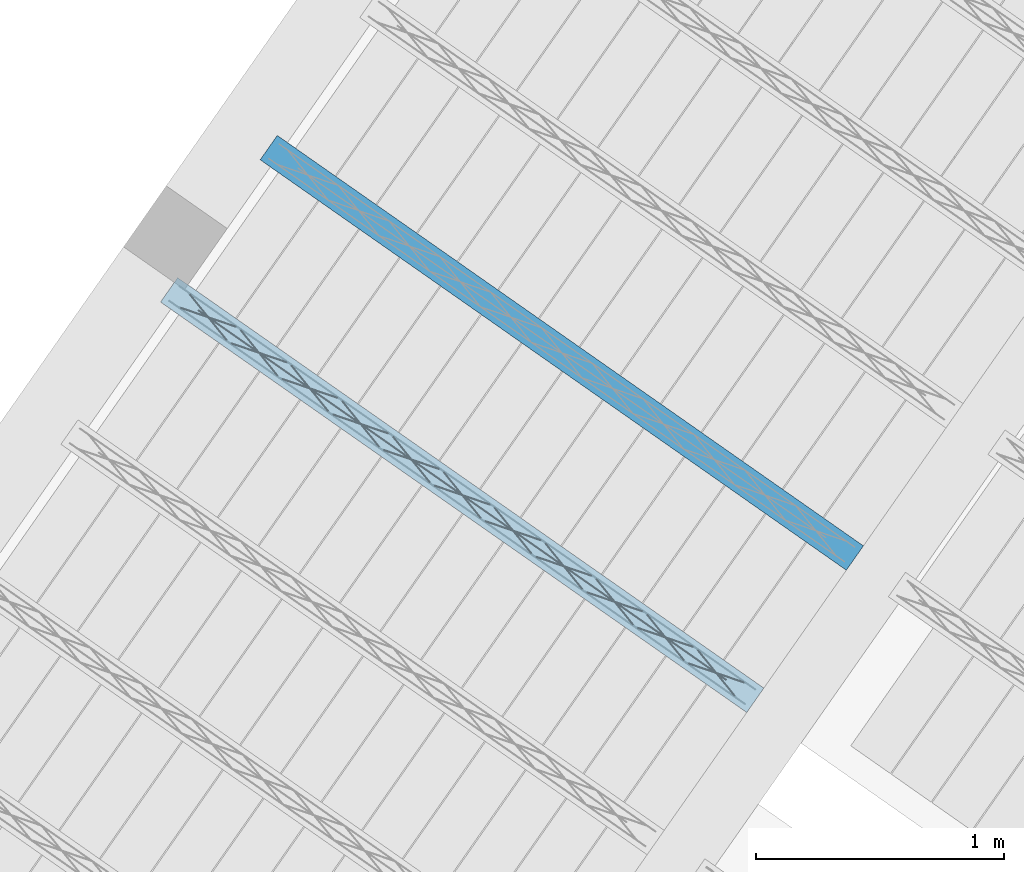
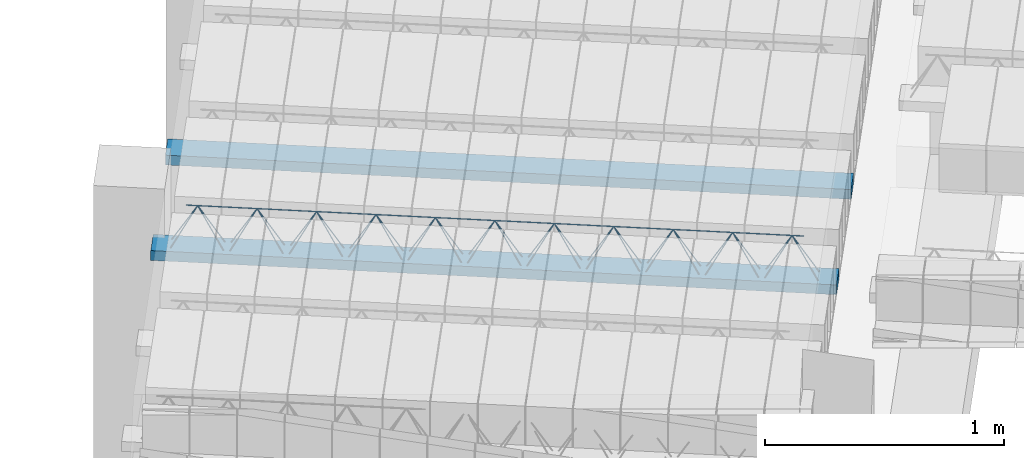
# One storey, part 17 of 80: 2 beams.
"""IFC2X3 building model written with IfcOpenShell, lengths in metres."""

from ifc_helpers import new_model, entity, si_unit, converted_unit, derived_unit, direction, frame, frame_2d, origin, origin_2d_with_axis, place, context, subcontext, project, spatial, rectangle, circle, extrude, material, type_object, element, save


model = new_model("IFC2X3")

# Units and contexts
model_context = context("Model", 3, precision=1e-05, world=origin(), true_north=direction((6.123031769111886e-17, 1.0)))
body_context = subcontext(model_context, "Body", "Model", "MODEL_VIEW")
ifc_project = project(units=[si_unit("LENGTHUNIT", "METRE"), si_unit("AREAUNIT", "SQUARE_METRE"), si_unit("VOLUMEUNIT", "CUBIC_METRE"), converted_unit("PLANEANGLEUNIT", "DEGREE", entity("IfcPlaneAngleMeasure", 0.017453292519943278), si_unit("PLANEANGLEUNIT", "RADIAN"), dimensions=[0, 0, 0, 0, 0, 0, 0]), si_unit("MASSUNIT", "GRAM", prefix="KILO"), derived_unit("MASSDENSITYUNIT", [(si_unit("MASSUNIT", "GRAM", prefix="KILO"), 1), (si_unit("LENGTHUNIT", "METRE"), -3)]), derived_unit("IONCONCENTRATIONUNIT", [(si_unit("MASSUNIT", "GRAM", prefix="KILO"), 1), (si_unit("LENGTHUNIT", "METRE"), -3)]), derived_unit("MOMENTOFINERTIAUNIT", [(si_unit("LENGTHUNIT", "METRE"), 4)]), si_unit("TIMEUNIT", "SECOND"), si_unit("FREQUENCYUNIT", "HERTZ"), si_unit("THERMODYNAMICTEMPERATUREUNIT", "DEGREE_CELSIUS"), derived_unit("THERMALTRANSMITTANCEUNIT", [(si_unit("MASSUNIT", "GRAM", prefix="KILO"), 1), (si_unit("THERMODYNAMICTEMPERATUREUNIT", "KELVIN"), -1), (si_unit("TIMEUNIT", "SECOND"), -3)]), derived_unit("THERMALCONDUCTANCEUNIT", [(si_unit("MASSUNIT", "GRAM", prefix="KILO"), 1), (si_unit("THERMODYNAMICTEMPERATUREUNIT", "KELVIN"), -1), (si_unit("TIMEUNIT", "SECOND"), -3), (si_unit("LENGTHUNIT", "METRE"), 1)]), derived_unit("VOLUMETRICFLOWRATEUNIT", [(si_unit("LENGTHUNIT", "METRE", prefix="DECI"), 3), (si_unit("TIMEUNIT", "SECOND"), -1)]), derived_unit("MASSFLOWRATEUNIT", [(si_unit("MASSUNIT", "GRAM", prefix="KILO"), 1), (si_unit("TIMEUNIT", "SECOND"), -1)]), derived_unit("ROTATIONALFREQUENCYUNIT", [(si_unit("TIMEUNIT", "SECOND"), -1)]), si_unit("ELECTRICCURRENTUNIT", "AMPERE"), si_unit("ELECTRICVOLTAGEUNIT", "VOLT"), si_unit("POWERUNIT", "WATT"), si_unit("FORCEUNIT", "NEWTON", prefix="KILO"), si_unit("ILLUMINANCEUNIT", "LUX"), si_unit("LUMINOUSFLUXUNIT", "LUMEN"), si_unit("LUMINOUSINTENSITYUNIT", "CANDELA"), si_unit("ENERGYUNIT", "JOULE"), derived_unit("USERDEFINED", [(si_unit("MASSUNIT", "GRAM", prefix="KILO"), -1), (si_unit("LENGTHUNIT", "METRE"), -2), (si_unit("TIMEUNIT", "SECOND"), 3), (si_unit("LUMINOUSFLUXUNIT", "LUMEN"), 1)]), derived_unit("USERDEFINED", [(si_unit("MASSUNIT", "GRAM", prefix="KILO"), 1), (si_unit("TIMEUNIT", "SECOND"), -3), (si_unit("LENGTHUNIT", "METRE"), 3), (si_unit("ELECTRICCURRENTUNIT", "AMPERE"), -2)]), derived_unit("SOUNDPOWERUNIT", [(si_unit("MASSUNIT", "GRAM", prefix="KILO"), 1), (si_unit("TIMEUNIT", "SECOND"), -3), (si_unit("LENGTHUNIT", "METRE"), 2)]), derived_unit("SOUNDPRESSUREUNIT", [(si_unit("MASSUNIT", "GRAM", prefix="KILO"), 1), (si_unit("LENGTHUNIT", "METRE"), -1), (si_unit("TIMEUNIT", "SECOND"), -2)]), derived_unit("LINEARVELOCITYUNIT", [(si_unit("LENGTHUNIT", "METRE"), 1), (si_unit("TIMEUNIT", "SECOND"), -1)]), si_unit("PRESSUREUNIT", "PASCAL"), derived_unit("USERDEFINED", [(si_unit("MASSUNIT", "GRAM", prefix="KILO"), 1), (si_unit("LENGTHUNIT", "METRE"), -2), (si_unit("TIMEUNIT", "SECOND"), -2)]), derived_unit("LINEARFORCEUNIT", [(si_unit("MASSUNIT", "GRAM", prefix="KILO"), 1), (si_unit("TIMEUNIT", "SECOND"), -2)]), derived_unit("PLANARFORCEUNIT", [(si_unit("MASSUNIT", "GRAM", prefix="KILO"), 1), (si_unit("LENGTHUNIT", "METRE"), -1), (si_unit("TIMEUNIT", "SECOND"), -2)]), derived_unit("SPECIFICHEATCAPACITYUNIT", [(si_unit("THERMODYNAMICTEMPERATUREUNIT", "KELVIN"), -1), (si_unit("LENGTHUNIT", "METRE"), 2), (si_unit("TIMEUNIT", "SECOND"), -2)]), derived_unit("HEATFLUXDENSITYUNIT", [(si_unit("MASSUNIT", "GRAM", prefix="KILO"), 1), (si_unit("TIMEUNIT", "SECOND"), -3)]), derived_unit("HEATINGVALUEUNIT", [(si_unit("LENGTHUNIT", "METRE"), 2), (si_unit("TIMEUNIT", "SECOND"), -2)]), derived_unit("VAPORPERMEABILITYUNIT", [(si_unit("LENGTHUNIT", "METRE"), -1), (si_unit("TIMEUNIT", "SECOND"), 1)]), derived_unit("DYNAMICVISCOSITYUNIT", [(si_unit("MASSUNIT", "GRAM", prefix="KILO"), 1), (si_unit("TIMEUNIT", "SECOND"), -1), (si_unit("LENGTHUNIT", "METRE"), -1)]), derived_unit("THERMALEXPANSIONCOEFFICIENTUNIT", [(si_unit("THERMODYNAMICTEMPERATUREUNIT", "KELVIN"), -1)]), derived_unit("MODULUSOFELASTICITYUNIT", [(si_unit("MASSUNIT", "GRAM", prefix="KILO"), 1), (si_unit("LENGTHUNIT", "METRE"), -1), (si_unit("TIMEUNIT", "SECOND"), -2)]), derived_unit("ISOTHERMALMOISTURECAPACITYUNIT", [(si_unit("MASSUNIT", "GRAM", prefix="KILO"), -1), (si_unit("LENGTHUNIT", "METRE"), 3)]), derived_unit("MOISTUREDIFFUSIVITYUNIT", [(si_unit("TIMEUNIT", "SECOND"), -1), (si_unit("LENGTHUNIT", "METRE"), 2)]), derived_unit("MASSPERLENGTHUNIT", [(si_unit("MASSUNIT", "GRAM", prefix="KILO"), 1), (si_unit("LENGTHUNIT", "METRE"), -1)]), derived_unit("THERMALRESISTANCEUNIT", [(si_unit("MASSUNIT", "GRAM", prefix="KILO"), -1), (si_unit("TIMEUNIT", "SECOND"), 3), (si_unit("THERMODYNAMICTEMPERATUREUNIT", "KELVIN"), 1)]), derived_unit("ACCELERATIONUNIT", [(si_unit("LENGTHUNIT", "METRE"), 1), (si_unit("TIMEUNIT", "SECOND"), -2)]), derived_unit("ANGULARVELOCITYUNIT", [(si_unit("TIMEUNIT", "SECOND"), -1), (si_unit("PLANEANGLEUNIT", "RADIAN"), 1)]), derived_unit("LINEARSTIFFNESSUNIT", [(si_unit("MASSUNIT", "GRAM", prefix="KILO"), 1), (si_unit("TIMEUNIT", "SECOND"), -2)]), derived_unit("WARPINGCONSTANTUNIT", [(si_unit("LENGTHUNIT", "METRE"), 6)]), derived_unit("LINEARMOMENTUNIT", [(si_unit("MASSUNIT", "GRAM", prefix="KILO"), 1), (si_unit("LENGTHUNIT", "METRE"), 1), (si_unit("TIMEUNIT", "SECOND"), -2)]), derived_unit("TORQUEUNIT", [(si_unit("MASSUNIT", "GRAM", prefix="KILO"), 1), (si_unit("LENGTHUNIT", "METRE"), 2), (si_unit("TIMEUNIT", "SECOND"), -2)])], contexts=[model_context])

# Site, building, storey
site_placement = place(None, origin())
site = spatial("IfcSite", under=ifc_project, at=site_placement, Name="Default", CompositionType="ELEMENT")
building_placement = place(site_placement, origin())
building = spatial("IfcBuilding", under=site, at=building_placement, CompositionType="ELEMENT")
storey_placement = place(building_placement, frame((0.0, 0.0, 95.94)))
storey = spatial("IfcBuildingStorey", under=building, at=storey_placement, Name="PB", CompositionType="ELEMENT", Elevation=95.94)

# Beams
beam_type = type_object("IfcBeamType", Name="Vigueta 5 (Paño 2) (Mf = 10.69)", PredefinedType="JOIST")
beam_1_placement = place(storey_placement, origin())
element("IfcBeam", 1, at=beam_1_placement, inside=storey, type_object=beam_type, Name="Vigueta 5 (Paño 2) (Mf = 10.69)", ObjectType="Mf = 10.69", context=body_context, shape_type="SweptSolid", body=[
    extrude(rectangle(XDim=2.8846382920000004, YDim=0.11999999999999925, at=frame_2d((1.1102230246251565e-16, 3.400058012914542e-16), x_axis=(1.0, 0.0))), frame((1.6073453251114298, 4.18523865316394, 2.82), z_axis=(0.0, 0.0, 1.0), x_axis=(0.8191520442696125, -0.5735764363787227, 0.0)), (0.0, 0.0, 1.0), 0.04999999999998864),
    extrude(circle(Radius=0.0025, at=origin_2d_with_axis()), frame((0.42487754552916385, 4.969263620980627, 2.8449999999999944), z_axis=(0.8191520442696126, -0.5735764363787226, 0.0), x_axis=(-0.5735764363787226, -0.8191520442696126, 0.0)), (0.0, 0.0, 1.0), 2.836638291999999),
    extrude(circle(Radius=0.0025, at=origin_2d_with_axis()), frame((0.5424476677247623, 4.930888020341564, 3.069999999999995), z_axis=(0.8191520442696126, -0.5735764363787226, 0.0), x_axis=(-0.5735764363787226, -0.8191520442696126, 0.0)), (0.0, 0.0, 1.0), 2.5999999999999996),
    extrude(circle(Radius=0.0025, at=origin_2d_with_axis()), frame((2.7130306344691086, 3.3670815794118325, 2.8449999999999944), z_axis=(-0.3145304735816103, 0.389334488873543, 0.8657304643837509), x_axis=(-0.7778747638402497, -0.6284193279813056, 0.0)), (0.0, 0.0, 1.0), 0.2598961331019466),
    extrude(circle(Radius=0.0025, at=origin_2d_with_axis()), frame((2.508242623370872, 3.5104756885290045, 2.8449999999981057), z_axis=(0.47343050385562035, -0.1624017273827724, 0.8657304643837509), x_axis=(-0.3244721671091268, -0.9458952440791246, 0.0)), (0.0, 0.0, 1.0), 0.25989613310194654),
    extrude(circle(Radius=0.0025, at=origin_2d_with_axis()), frame((2.508242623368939, 3.5104756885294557, 2.8449999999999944), z_axis=(-0.3145304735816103, 0.389334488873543, 0.8657304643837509), x_axis=(-0.7778747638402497, -0.6284193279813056, 0.0)), (0.0, 0.0, 1.0), 0.2598961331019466),
    extrude(circle(Radius=0.0025, at=origin_2d_with_axis()), frame((2.3034546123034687, 3.653869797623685, 2.8449999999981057), z_axis=(0.47343050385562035, -0.1624017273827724, 0.8657304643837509), x_axis=(-0.3244721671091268, -0.9458952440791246, 0.0)), (0.0, 0.0, 1.0), 0.25989613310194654),
    extrude(circle(Radius=0.0025, at=origin_2d_with_axis()), frame((2.303454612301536, 3.6538697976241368, 2.8449999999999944), z_axis=(-0.3145304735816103, 0.389334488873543, 0.8657304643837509), x_axis=(-0.7778747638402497, -0.6284193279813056, 0.0)), (0.0, 0.0, 1.0), 0.2598961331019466),
    extrude(circle(Radius=0.0025, at=origin_2d_with_axis()), frame((2.098666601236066, 3.7972639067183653, 2.8449999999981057), z_axis=(0.47343050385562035, -0.1624017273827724, 0.8657304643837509), x_axis=(-0.3244721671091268, -0.9458952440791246, 0.0)), (0.0, 0.0, 1.0), 0.25989613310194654),
    extrude(circle(Radius=0.0025, at=origin_2d_with_axis()), frame((2.0986666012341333, 3.7972639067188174, 2.8449999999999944), z_axis=(-0.3145304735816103, 0.389334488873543, 0.8657304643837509), x_axis=(-0.7778747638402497, -0.6284193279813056, 0.0)), (0.0, 0.0, 1.0), 0.2598961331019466),
    extrude(circle(Radius=0.0025, at=origin_2d_with_axis()), frame((1.8938785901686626, 3.9406580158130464, 2.8449999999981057), z_axis=(0.47343050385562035, -0.1624017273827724, 0.8657304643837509), x_axis=(-0.3244721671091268, -0.9458952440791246, 0.0)), (0.0, 0.0, 1.0), 0.25989613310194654),
    extrude(circle(Radius=0.0025, at=origin_2d_with_axis()), frame((1.8938785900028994, 3.9406580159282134, 2.8449999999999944), z_axis=(-0.3145304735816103, 0.389334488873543, 0.8657304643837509), x_axis=(-0.7778747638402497, -0.6284193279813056, 0.0)), (0.0, 0.0, 1.0), 0.2598961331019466),
    extrude(circle(Radius=0.0025, at=origin_2d_with_axis()), frame((1.6890905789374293, 4.084052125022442, 2.8449999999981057), z_axis=(0.47343050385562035, -0.1624017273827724, 0.8657304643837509), x_axis=(-0.3244721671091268, -0.9458952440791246, 0.0)), (0.0, 0.0, 1.0), 0.25989613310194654),
    extrude(circle(Radius=0.0025, at=origin_2d_with_axis()), frame((1.6890905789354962, 4.084052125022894, 2.8449999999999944), z_axis=(-0.3145304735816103, 0.389334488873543, 0.8657304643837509), x_axis=(-0.7778747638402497, -0.6284193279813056, 0.0)), (0.0, 0.0, 1.0), 0.2598961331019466),
    extrude(circle(Radius=0.0025, at=origin_2d_with_axis()), frame((1.4843025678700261, 4.227446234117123, 2.8449999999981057), z_axis=(0.47343050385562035, -0.1624017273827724, 0.8657304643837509), x_axis=(-0.3244721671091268, -0.9458952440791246, 0.0)), (0.0, 0.0, 1.0), 0.25989613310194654),
    extrude(circle(Radius=0.0025, at=origin_2d_with_axis()), frame((1.4843025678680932, 4.227446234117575, 2.8449999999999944), z_axis=(-0.3145304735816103, 0.389334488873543, 0.8657304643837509), x_axis=(-0.7778747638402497, -0.6284193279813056, 0.0)), (0.0, 0.0, 1.0), 0.2598961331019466),
    extrude(circle(Radius=0.0025, at=origin_2d_with_axis()), frame((1.279514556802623, 4.370840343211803, 2.8449999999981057), z_axis=(0.47343050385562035, -0.1624017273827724, 0.8657304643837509), x_axis=(-0.3244721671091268, -0.9458952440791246, 0.0)), (0.0, 0.0, 1.0), 0.25989613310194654),
    extrude(circle(Radius=0.0025, at=origin_2d_with_axis()), frame((1.27951455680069, 4.370840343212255, 2.8449999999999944), z_axis=(-0.3145304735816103, 0.389334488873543, 0.8657304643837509), x_axis=(-0.7778747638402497, -0.6284193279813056, 0.0)), (0.0, 0.0, 1.0), 0.2598961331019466),
    extrude(circle(Radius=0.0025, at=origin_2d_with_axis()), frame((1.0747265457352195, 4.514234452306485, 2.8449999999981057), z_axis=(0.47343050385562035, -0.1624017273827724, 0.8657304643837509), x_axis=(-0.3244721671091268, -0.9458952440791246, 0.0)), (0.0, 0.0, 1.0), 0.25989613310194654),
    extrude(circle(Radius=0.0025, at=origin_2d_with_axis()), frame((1.0747265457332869, 4.514234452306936, 2.8449999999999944), z_axis=(-0.3145304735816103, 0.389334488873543, 0.8657304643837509), x_axis=(-0.7778747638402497, -0.6284193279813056, 0.0)), (0.0, 0.0, 1.0), 0.2598961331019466),
    extrude(circle(Radius=0.0025, at=origin_2d_with_axis()), frame((0.8699385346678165, 4.6576285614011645, 2.8449999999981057), z_axis=(0.47343050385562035, -0.1624017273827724, 0.8657304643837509), x_axis=(-0.3244721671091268, -0.9458952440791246, 0.0)), (0.0, 0.0, 1.0), 0.25989613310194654),
    extrude(circle(Radius=0.0025, at=origin_2d_with_axis()), frame((0.8699385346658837, 4.657628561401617, 2.8449999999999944), z_axis=(-0.3145304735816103, 0.389334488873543, 0.8657304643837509), x_axis=(-0.7778747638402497, -0.6284193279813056, 0.0)), (0.0, 0.0, 1.0), 0.2598961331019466),
    extrude(circle(Radius=0.0025, at=origin_2d_with_axis()), frame((0.665150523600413, 4.801022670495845, 2.8449999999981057), z_axis=(0.47343050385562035, -0.1624017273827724, 0.8657304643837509), x_axis=(-0.3244721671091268, -0.9458952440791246, 0.0)), (0.0, 0.0, 1.0), 0.25989613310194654),
    extrude(circle(Radius=0.0025, at=origin_2d_with_axis()), frame((0.6651505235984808, 4.801022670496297, 2.8449999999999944), z_axis=(-0.3145304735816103, 0.389334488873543, 0.8657304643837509), x_axis=(-0.7778747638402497, -0.6284193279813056, 0.0)), (0.0, 0.0, 1.0), 0.2598961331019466),
    extrude(circle(Radius=0.0025, at=origin_2d_with_axis()), frame((0.4603625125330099, 4.944416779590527, 2.8449999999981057), z_axis=(0.47343050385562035, -0.1624017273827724, 0.8657304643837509), x_axis=(-0.3244721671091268, -0.9458952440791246, 0.0)), (0.0, 0.0, 1.0), 0.25989613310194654),
    extrude(circle(Radius=0.0025, at=origin_2d_with_axis()), frame((0.46617504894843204, 5.0282425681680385, 2.8449999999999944), z_axis=(0.8191520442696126, -0.5735764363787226, 0.0), x_axis=(-0.5735764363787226, -0.8191520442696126, 0.0)), (0.0, 0.0, 1.0), 2.836638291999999),
    extrude(circle(Radius=0.0025, at=origin_2d_with_axis()), frame((2.754328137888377, 3.4260605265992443, 2.8449999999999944), z_axis=(-0.47343050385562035, 0.1624017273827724, 0.8657304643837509), x_axis=(-0.3244721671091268, -0.9458952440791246, 0.0)), (0.0, 0.0, 1.0), 0.25989613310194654),
    extrude(circle(Radius=0.0025, at=origin_2d_with_axis()), frame((2.5495401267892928, 3.569454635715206, 2.8449999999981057), z_axis=(0.3145304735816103, -0.389334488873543, 0.8657304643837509), x_axis=(-0.7778747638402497, -0.6284193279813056, 0.0)), (0.0, 0.0, 1.0), 0.2598961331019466),
    extrude(circle(Radius=0.0025, at=origin_2d_with_axis()), frame((2.5495401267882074, 3.569454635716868, 2.8449999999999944), z_axis=(-0.47343050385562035, 0.1624017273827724, 0.8657304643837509), x_axis=(-0.3244721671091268, -0.9458952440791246, 0.0)), (0.0, 0.0, 1.0), 0.25989613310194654),
    extrude(circle(Radius=0.0025, at=origin_2d_with_axis()), frame((2.3447521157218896, 3.712848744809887, 2.8449999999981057), z_axis=(0.3145304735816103, -0.389334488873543, 0.8657304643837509), x_axis=(-0.7778747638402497, -0.6284193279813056, 0.0)), (0.0, 0.0, 1.0), 0.2598961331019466),
    extrude(circle(Radius=0.0025, at=origin_2d_with_axis()), frame((2.344752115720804, 3.7128487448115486, 2.8449999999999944), z_axis=(-0.47343050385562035, 0.1624017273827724, 0.8657304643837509), x_axis=(-0.3244721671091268, -0.9458952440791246, 0.0)), (0.0, 0.0, 1.0), 0.25989613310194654),
    extrude(circle(Radius=0.0025, at=origin_2d_with_axis()), frame((2.1399641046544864, 3.8562428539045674, 2.8449999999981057), z_axis=(0.3145304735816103, -0.389334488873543, 0.8657304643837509), x_axis=(-0.7778747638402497, -0.6284193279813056, 0.0)), (0.0, 0.0, 1.0), 0.2598961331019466),
    extrude(circle(Radius=0.0025, at=origin_2d_with_axis()), frame((2.1399641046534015, 3.8562428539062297, 2.8449999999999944), z_axis=(-0.47343050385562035, 0.1624017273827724, 0.8657304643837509), x_axis=(-0.3244721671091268, -0.9458952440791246, 0.0)), (0.0, 0.0, 1.0), 0.25989613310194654),
    extrude(circle(Radius=0.0025, at=origin_2d_with_axis()), frame((1.9351760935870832, 3.999636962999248, 2.8449999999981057), z_axis=(0.3145304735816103, -0.389334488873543, 0.8657304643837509), x_axis=(-0.7778747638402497, -0.6284193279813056, 0.0)), (0.0, 0.0, 1.0), 0.2598961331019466),
    extrude(circle(Radius=0.0025, at=origin_2d_with_axis()), frame((1.9351760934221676, 3.9996369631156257, 2.8449999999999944), z_axis=(-0.47343050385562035, 0.1624017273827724, 0.8657304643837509), x_axis=(-0.3244721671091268, -0.9458952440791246, 0.0)), (0.0, 0.0, 1.0), 0.25989613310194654),
    extrude(circle(Radius=0.0025, at=origin_2d_with_axis()), frame((1.7303880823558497, 4.143031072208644, 2.8449999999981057), z_axis=(0.3145304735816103, -0.389334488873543, 0.8657304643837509), x_axis=(-0.7778747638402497, -0.6284193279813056, 0.0)), (0.0, 0.0, 1.0), 0.2598961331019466),
    extrude(circle(Radius=0.0025, at=origin_2d_with_axis()), frame((1.7303880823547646, 4.143031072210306, 2.8449999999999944), z_axis=(-0.47343050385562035, 0.1624017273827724, 0.8657304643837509), x_axis=(-0.3244721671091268, -0.9458952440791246, 0.0)), (0.0, 0.0, 1.0), 0.25989613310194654),
    extrude(circle(Radius=0.0025, at=origin_2d_with_axis()), frame((1.5256000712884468, 4.286425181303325, 2.8449999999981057), z_axis=(0.3145304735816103, -0.389334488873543, 0.8657304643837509), x_axis=(-0.7778747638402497, -0.6284193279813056, 0.0)), (0.0, 0.0, 1.0), 0.2598961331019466),
    extrude(circle(Radius=0.0025, at=origin_2d_with_axis()), frame((1.5256000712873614, 4.2864251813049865, 2.8449999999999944), z_axis=(-0.47343050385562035, 0.1624017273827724, 0.8657304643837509), x_axis=(-0.3244721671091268, -0.9458952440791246, 0.0)), (0.0, 0.0, 1.0), 0.25989613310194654),
    extrude(circle(Radius=0.0025, at=origin_2d_with_axis()), frame((1.3208120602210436, 4.429819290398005, 2.8449999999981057), z_axis=(0.3145304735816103, -0.389334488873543, 0.8657304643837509), x_axis=(-0.7778747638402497, -0.6284193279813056, 0.0)), (0.0, 0.0, 1.0), 0.2598961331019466),
    extrude(circle(Radius=0.0025, at=origin_2d_with_axis()), frame((1.3208120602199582, 4.429819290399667, 2.8449999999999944), z_axis=(-0.47343050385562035, 0.1624017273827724, 0.8657304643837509), x_axis=(-0.3244721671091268, -0.9458952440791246, 0.0)), (0.0, 0.0, 1.0), 0.25989613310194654),
    extrude(circle(Radius=0.0025, at=origin_2d_with_axis()), frame((1.1160240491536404, 4.573213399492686, 2.8449999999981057), z_axis=(0.3145304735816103, -0.389334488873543, 0.8657304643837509), x_axis=(-0.7778747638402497, -0.6284193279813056, 0.0)), (0.0, 0.0, 1.0), 0.2598961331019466),
    extrude(circle(Radius=0.0025, at=origin_2d_with_axis()), frame((1.116024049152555, 4.573213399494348, 2.8449999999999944), z_axis=(-0.47343050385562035, 0.1624017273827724, 0.8657304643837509), x_axis=(-0.3244721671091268, -0.9458952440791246, 0.0)), (0.0, 0.0, 1.0), 0.25989613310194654),
    extrude(circle(Radius=0.0025, at=origin_2d_with_axis()), frame((0.9112360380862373, 4.716607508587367, 2.8449999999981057), z_axis=(0.3145304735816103, -0.389334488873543, 0.8657304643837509), x_axis=(-0.7778747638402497, -0.6284193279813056, 0.0)), (0.0, 0.0, 1.0), 0.2598961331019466),
    extrude(circle(Radius=0.0025, at=origin_2d_with_axis()), frame((0.911236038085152, 4.716607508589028, 2.8449999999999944), z_axis=(-0.47343050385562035, 0.1624017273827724, 0.8657304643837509), x_axis=(-0.3244721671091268, -0.9458952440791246, 0.0)), (0.0, 0.0, 1.0), 0.25989613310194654),
    extrude(circle(Radius=0.0025, at=origin_2d_with_axis()), frame((0.7064480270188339, 4.860001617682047, 2.8449999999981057), z_axis=(0.3145304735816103, -0.389334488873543, 0.8657304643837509), x_axis=(-0.7778747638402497, -0.6284193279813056, 0.0)), (0.0, 0.0, 1.0), 0.2598961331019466),
    extrude(circle(Radius=0.0025, at=origin_2d_with_axis()), frame((0.706448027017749, 4.860001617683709, 2.8449999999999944), z_axis=(-0.47343050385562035, 0.1624017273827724, 0.8657304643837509), x_axis=(-0.3244721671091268, -0.9458952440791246, 0.0)), (0.0, 0.0, 1.0), 0.25989613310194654),
    extrude(circle(Radius=0.0025, at=origin_2d_with_axis()), frame((0.5016600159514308, 5.003395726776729, 2.8449999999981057), z_axis=(0.3145304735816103, -0.389334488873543, 0.8657304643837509), x_axis=(-0.7778747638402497, -0.6284193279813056, 0.0)), (0.0, 0.0, 1.0), 0.2598961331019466),
])
ifc_material = material(Name="Hormigón armado")
beam_2_placement = place(storey_placement, origin())
element("IfcBeam", 2, at=beam_2_placement, inside=storey, material=ifc_material, Name="237972", context=body_context, shape_type="SweptSolid", body=[
    extrude(rectangle(XDim=0.04999999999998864, YDim=0.12000000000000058, at=frame_2d((1.7324683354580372e-14, -6.38378239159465e-16), x_axis=(1.0, 0.0))), frame((0.8273990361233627, 5.585905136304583, 2.8450000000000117), z_axis=(0.8191520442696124, -0.5735764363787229, 0.0), x_axis=(0.0, 0.0, -1.0)), (0.0, 0.0, 1.0), 2.8846030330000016),
])

save(model, "model.ifc")
